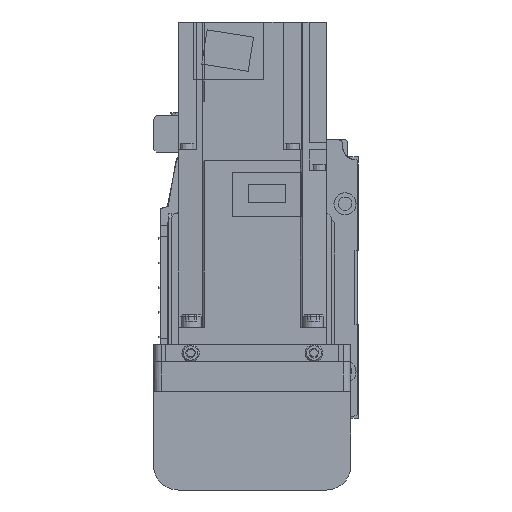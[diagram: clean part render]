
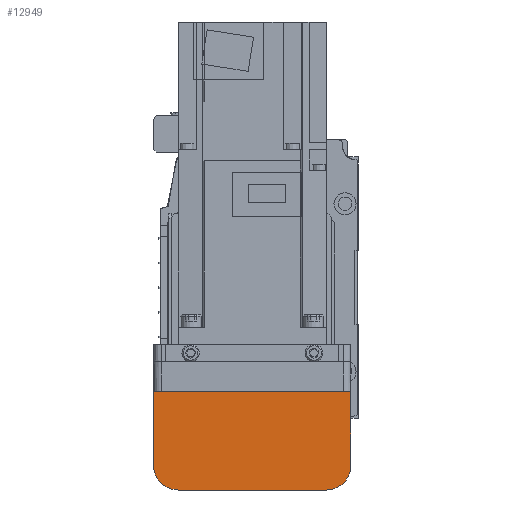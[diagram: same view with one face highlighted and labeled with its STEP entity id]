
A CAD part, left-side view. The second image highlights one B-rep face of the part: STEP entity #12949.
In plain terms, the highlighted planar face has unit normal (-1, 0, 0).
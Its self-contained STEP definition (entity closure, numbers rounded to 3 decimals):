
#511=CIRCLE('',#13951,10.);
#512=CIRCLE('',#13952,10.);
#2222=ORIENTED_EDGE('',*,*,#5221,.F.);
#2223=ORIENTED_EDGE('',*,*,#5222,.F.);
#2224=ORIENTED_EDGE('',*,*,#5223,.F.);
#2225=ORIENTED_EDGE('',*,*,#5224,.F.);
#2226=ORIENTED_EDGE('',*,*,#5225,.F.);
#2227=ORIENTED_EDGE('',*,*,#5226,.F.);
#5221=EDGE_CURVE('',#6827,#6823,#8145,.T.);
#5222=EDGE_CURVE('',#6839,#6827,#8146,.T.);
#5223=EDGE_CURVE('',#6840,#6839,#511,.T.);
#5224=EDGE_CURVE('',#6841,#6840,#8147,.T.);
#5225=EDGE_CURVE('',#6842,#6841,#512,.T.);
#5226=EDGE_CURVE('',#6823,#6842,#8148,.T.);
#6823=VERTEX_POINT('',#20287);
#6827=VERTEX_POINT('',#20297);
#6839=VERTEX_POINT('',#20326);
#6840=VERTEX_POINT('',#20328);
#6841=VERTEX_POINT('',#20330);
#6842=VERTEX_POINT('',#20332);
#8145=LINE('',#20324,#9373);
#8146=LINE('',#20325,#9374);
#8147=LINE('',#20329,#9375);
#8148=LINE('',#20333,#9376);
#9373=VECTOR('',#16288,1000.);
#9374=VECTOR('',#16289,1000.);
#9375=VECTOR('',#16292,1000.);
#9376=VECTOR('',#16295,1000.);
#10428=EDGE_LOOP('',(#2222,#2223,#2224,#2225,#2226,#2227));
#11478=FACE_BOUND('',#10428,.T.);
#12371=PLANE('',#13950);
#12949=ADVANCED_FACE('',(#11478),#12371,.F.);
#13950=AXIS2_PLACEMENT_3D('',#20323,#16286,#16287);
#13951=AXIS2_PLACEMENT_3D('',#20327,#16290,#16291);
#13952=AXIS2_PLACEMENT_3D('',#20331,#16293,#16294);
#16286=DIRECTION('',(1.,0.,0.));
#16287=DIRECTION('',(0.,0.,-1.));
#16288=DIRECTION('',(0.,-1.,0.));
#16289=DIRECTION('',(0.,0.,1.));
#16290=DIRECTION('',(1.,0.,0.));
#16291=DIRECTION('',(0.,0.,-1.));
#16292=DIRECTION('',(0.,1.,0.));
#16293=DIRECTION('',(1.,0.,0.));
#16294=DIRECTION('',(0.,0.,-1.));
#16295=DIRECTION('',(0.,0.,-1.));
#20287=CARTESIAN_POINT('',(-192.,-40.,-12.1));
#20297=CARTESIAN_POINT('',(-192.,40.,-12.1));
#20323=CARTESIAN_POINT('',(-192.,37.,7.));
#20324=CARTESIAN_POINT('',(-192.,50.,-12.1));
#20325=CARTESIAN_POINT('',(-192.,40.,-42.));
#20326=CARTESIAN_POINT('',(-192.,40.,-42.));
#20327=CARTESIAN_POINT('',(-192.,30.,-42.));
#20328=CARTESIAN_POINT('',(-192.,30.,-52.));
#20329=CARTESIAN_POINT('',(-192.,-30.,-52.));
#20330=CARTESIAN_POINT('',(-192.,-30.,-52.));
#20331=CARTESIAN_POINT('',(-192.,-30.,-42.));
#20332=CARTESIAN_POINT('',(-192.,-40.,-42.));
#20333=CARTESIAN_POINT('',(-192.,-40.,-12.1));
